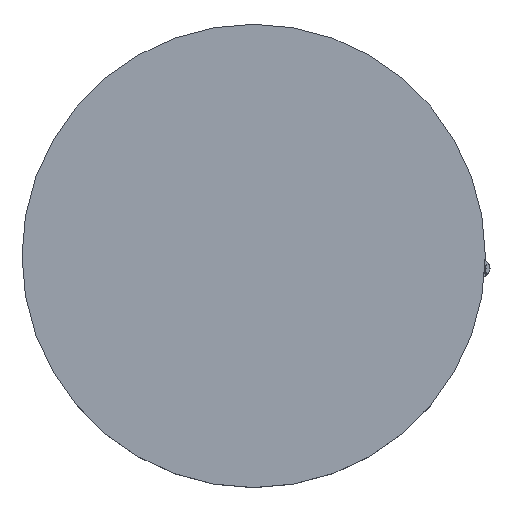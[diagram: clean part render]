
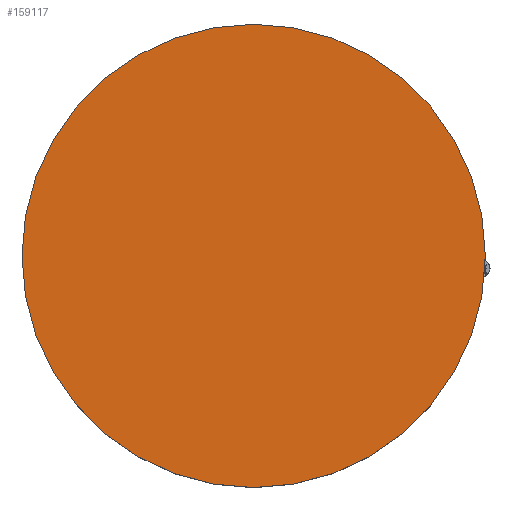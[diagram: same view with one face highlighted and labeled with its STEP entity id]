
A CAD part, top view. The second image highlights one B-rep face of the part: STEP entity #159117.
In plain terms, the highlighted planar face has unit normal (0, 0, 1) as drawn and (1, 0, 0) by its records, which use the part's own axes.
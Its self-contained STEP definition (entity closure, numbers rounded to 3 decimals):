
#10290 = CIRCLE ( 'NONE', #110010, 450. ) ;
#20591 = VERTEX_POINT ( 'NONE', #45235 ) ;
#26915 = DIRECTION ( 'NONE',  ( 1., 0., 0. ) ) ;
#35030 = AXIS2_PLACEMENT_3D ( 'NONE', #116868, #26915, #205552 ) ;
#43895 = EDGE_LOOP ( 'NONE', ( #160563, #119366 ) ) ;
#45235 = CARTESIAN_POINT ( 'NONE',  ( 150., 0., -450. ) ) ;
#57749 = DIRECTION ( 'NONE',  ( 0., 0., -1. ) ) ;
#60190 = EDGE_CURVE ( 'NONE', #157673, #20591, #10290, .T. ) ;
#96343 = DIRECTION ( 'NONE',  ( 0., 0., -1. ) ) ;
#98285 = CIRCLE ( 'NONE', #197733, 450. ) ;
#107163 = EDGE_CURVE ( 'NONE', #20591, #157673, #98285, .T. ) ;
#110010 = AXIS2_PLACEMENT_3D ( 'NONE', #183516, #184284, #96343 ) ;
#116868 = CARTESIAN_POINT ( 'NONE',  ( 150., 0., 0. ) ) ;
#119366 = ORIENTED_EDGE ( 'NONE', *, *, #107163, .T. ) ;
#146369 = CARTESIAN_POINT ( 'NONE',  ( 150., 0., 0. ) ) ;
#157673 = VERTEX_POINT ( 'NONE', #207201 ) ;
#159117 = ADVANCED_FACE ( 'NONE', ( #186760 ), #204790, .T. ) ;
#160563 = ORIENTED_EDGE ( 'NONE', *, *, #60190, .T. ) ;
#183516 = CARTESIAN_POINT ( 'NONE',  ( 150., 0., 0. ) ) ;
#184284 = DIRECTION ( 'NONE',  ( 1., 0., 0. ) ) ;
#186760 = FACE_OUTER_BOUND ( 'NONE', #43895, .T. ) ;
#197733 = AXIS2_PLACEMENT_3D ( 'NONE', #146369, #217244, #57749 ) ;
#204790 = PLANE ( 'NONE',  #35030 ) ;
#205552 = DIRECTION ( 'NONE',  ( 0., 0., -1. ) ) ;
#207201 = CARTESIAN_POINT ( 'NONE',  ( 150., 0., 450. ) ) ;
#217244 = DIRECTION ( 'NONE',  ( 1., 0., 0. ) ) ;
